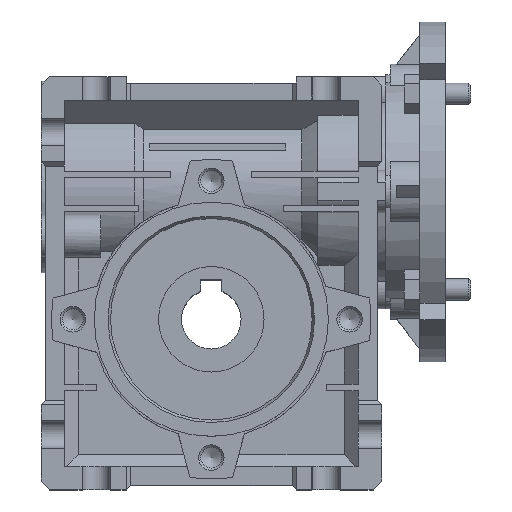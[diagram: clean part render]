
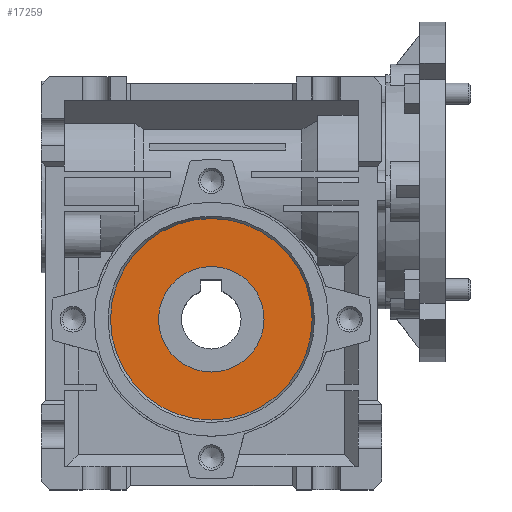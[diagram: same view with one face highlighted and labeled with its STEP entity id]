
A CAD part, top view. The second image highlights one B-rep face of the part: STEP entity #17259.
In plain terms, the highlighted planar face has unit normal (0, 0, 1) as drawn and (-1, 0, 0) by its records, which use the part's own axes.
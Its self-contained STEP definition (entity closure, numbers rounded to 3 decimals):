
#697=CIRCLE('',#18525,23.675);
#698=CIRCLE('',#18526,12.4);
#3947=ORIENTED_EDGE('',*,*,#7566,.F.);
#3948=ORIENTED_EDGE('',*,*,#7567,.F.);
#7566=EDGE_CURVE('',#9581,#9581,#697,.T.);
#7567=EDGE_CURVE('',#9582,#9582,#698,.F.);
#9581=VERTEX_POINT('',#27469);
#9582=VERTEX_POINT('',#27471);
#14454=EDGE_LOOP('',(#3947));
#14455=EDGE_LOOP('',(#3948));
#15521=FACE_BOUND('',#14454,.T.);
#15522=FACE_BOUND('',#14455,.T.);
#16464=PLANE('',#18524);
#17259=ADVANCED_FACE('',(#15521,#15522),#16464,.F.);
#18524=AXIS2_PLACEMENT_3D('',#27467,#22065,#22066);
#18525=AXIS2_PLACEMENT_3D('',#27468,#22067,#22068);
#18526=AXIS2_PLACEMENT_3D('',#27470,#22069,#22070);
#22065=DIRECTION('',(1.,0.,0.));
#22066=DIRECTION('',(0.,0.,-1.));
#22067=DIRECTION('',(1.,0.,0.));
#22068=DIRECTION('',(0.,0.,-1.));
#22069=DIRECTION('',(1.,0.,0.));
#22070=DIRECTION('',(0.,0.,-1.));
#27467=CARTESIAN_POINT('',(-30.5,0.,0.));
#27468=CARTESIAN_POINT('',(-30.5,0.,0.));
#27469=CARTESIAN_POINT('',(-30.5,0.,-23.675));
#27470=CARTESIAN_POINT('',(-30.5,0.,0.));
#27471=CARTESIAN_POINT('',(-30.5,0.,-12.4));
